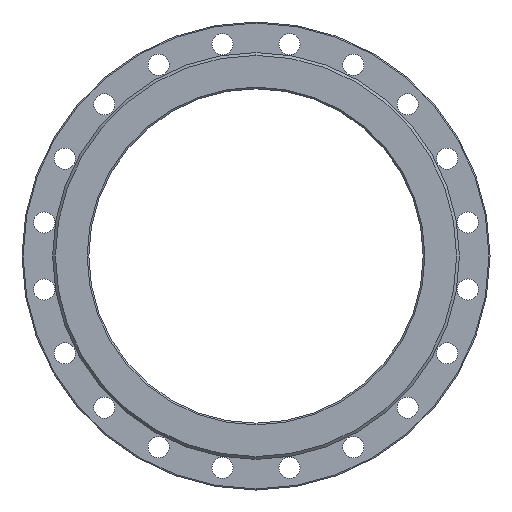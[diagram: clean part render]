
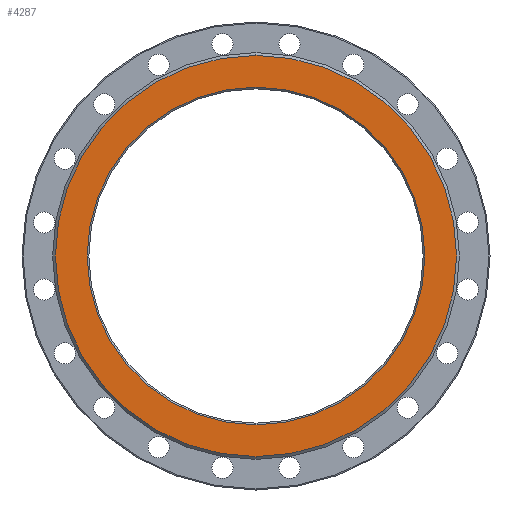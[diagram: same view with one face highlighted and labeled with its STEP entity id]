
A CAD part, left-side view. The second image highlights one B-rep face of the part: STEP entity #4287.
In plain terms, the highlighted planar face has unit normal (-1, 0, 0).
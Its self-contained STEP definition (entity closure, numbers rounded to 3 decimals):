
#57 = DIRECTION ( 'NONE',  ( 1., 0., 0. ) ) ;
#167 = CIRCLE ( 'NONE', #1784, 360. ) ;
#173 = DIRECTION ( 'NONE',  ( 0., 0., 1. ) ) ;
#382 = VERTEX_POINT ( 'NONE', #3023 ) ;
#435 = CARTESIAN_POINT ( 'NONE',  ( -350., 0., 0. ) ) ;
#785 = EDGE_LOOP ( 'NONE', ( #5532, #2374 ) ) ;
#851 = CIRCLE ( 'NONE', #2975, 303. ) ;
#959 = EDGE_CURVE ( 'Defeatured_0_3+Defeatured_0_4+Defeatured_0_4+Defeatured_0_4', #382, #1851, #4467, .T. ) ;
#1290 = DIRECTION ( 'NONE',  ( 0., 0., 1. ) ) ;
#1416 = DIRECTION ( 'NONE',  ( 0., 0., -1. ) ) ;
#1522 = EDGE_CURVE ( 'Defeatured_0_3+Defeatured_0_32+Defeatured_0_32+Defeatured_0_32', #3458, #2037, #3864, .T. ) ;
#1756 = ORIENTED_EDGE ( 'NONE', *, *, #959, .T. ) ;
#1784 = AXIS2_PLACEMENT_3D ( 'NONE', #3747, #2307, #1290 ) ;
#1851 = VERTEX_POINT ( 'NONE', #4864 ) ;
#1884 = EDGE_LOOP ( 'NONE', ( #4903, #1756 ) ) ;
#2037 = VERTEX_POINT ( 'NONE', #3687 ) ;
#2077 = CARTESIAN_POINT ( 'NONE',  ( -350., 0., 0. ) ) ;
#2226 = EDGE_CURVE ( 'Defeatured_0_3+Defeatured_0_32+Defeatured_0_32+Defeatured_0_32', #2037, #3458, #851, .T. ) ;
#2307 = DIRECTION ( 'NONE',  ( -1., 0., 0. ) ) ;
#2374 = ORIENTED_EDGE ( 'NONE', *, *, #1522, .T. ) ;
#2544 = CARTESIAN_POINT ( 'NONE',  ( -350., 0., -303. ) ) ;
#2962 = AXIS2_PLACEMENT_3D ( 'NONE', #2077, #4490, #173 ) ;
#2975 = AXIS2_PLACEMENT_3D ( 'NONE', #4373, #57, #5711 ) ;
#3023 = CARTESIAN_POINT ( 'NONE',  ( -350., 0., 360. ) ) ;
#3458 = VERTEX_POINT ( 'NONE', #2544 ) ;
#3687 = CARTESIAN_POINT ( 'NONE',  ( -350., 0., 303. ) ) ;
#3747 = CARTESIAN_POINT ( 'NONE',  ( -350., 0., 0. ) ) ;
#3864 = CIRCLE ( 'NONE', #4268, 303. ) ;
#3881 = PLANE ( 'NONE',  #5593 ) ;
#3908 = DIRECTION ( 'NONE',  ( 1., 0., 0. ) ) ;
#4268 = AXIS2_PLACEMENT_3D ( 'NONE', #435, #4279, #1416 ) ;
#4279 = DIRECTION ( 'NONE',  ( 1., 0., 0. ) ) ;
#4287 = ADVANCED_FACE ( 'Defeatured_0_3', ( #4801, #4321 ), #3881, .F. ) ;
#4321 = FACE_OUTER_BOUND ( 'NONE', #1884, .T. ) ;
#4373 = CARTESIAN_POINT ( 'NONE',  ( -350., 0., 0. ) ) ;
#4467 = CIRCLE ( 'NONE', #2962, 360. ) ;
#4490 = DIRECTION ( 'NONE',  ( -1., 0., 0. ) ) ;
#4540 = EDGE_CURVE ( 'Defeatured_0_3+Defeatured_0_4+Defeatured_0_4+Defeatured_0_4', #1851, #382, #167, .T. ) ;
#4801 = FACE_BOUND ( 'NONE', #785, .T. ) ;
#4864 = CARTESIAN_POINT ( 'NONE',  ( -350., 0., -360. ) ) ;
#4903 = ORIENTED_EDGE ( 'NONE', *, *, #4540, .T. ) ;
#5532 = ORIENTED_EDGE ( 'NONE', *, *, #2226, .T. ) ;
#5593 = AXIS2_PLACEMENT_3D ( 'NONE', #5806, #3908, #5832 ) ;
#5711 = DIRECTION ( 'NONE',  ( 0., 0., -1. ) ) ;
#5806 = CARTESIAN_POINT ( 'NONE',  ( -350., 300., 0. ) ) ;
#5832 = DIRECTION ( 'NONE',  ( 0., 0., -1. ) ) ;
